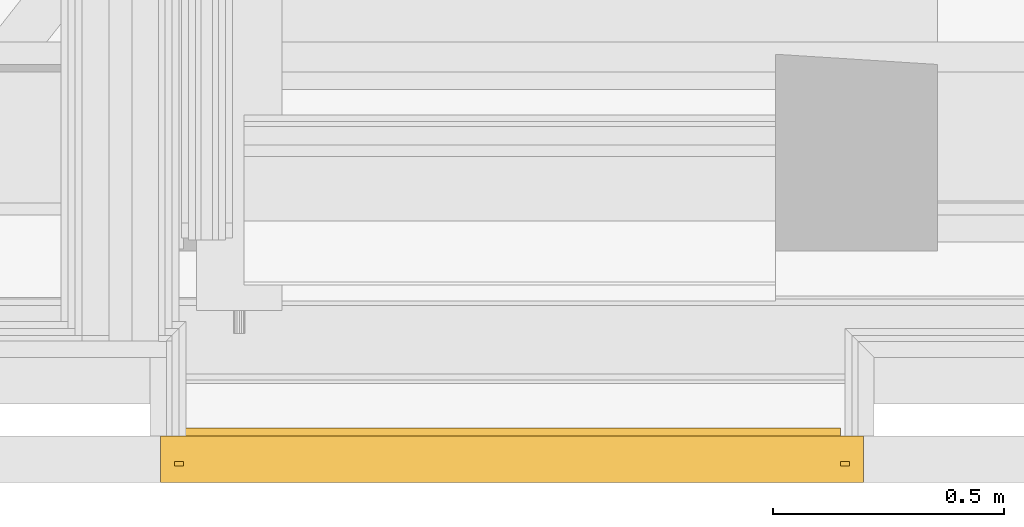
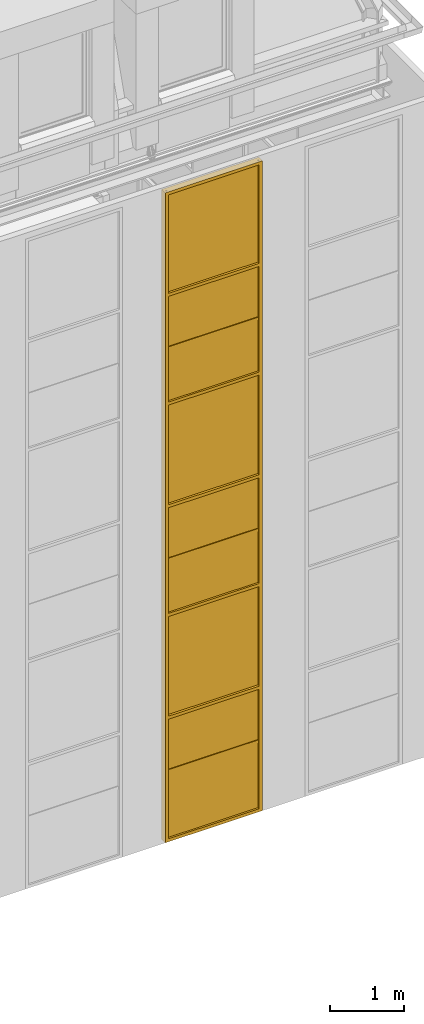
# One storey, part 141 of 183: 1 curtain wall.
"""IFC2X3 building model written with IfcOpenShell, lengths in metres."""

import ifcopenshell
import ifcopenshell.guid

model = None  # the IFC model being written
_history = None  # IfcOwnerHistory: only IFC2X3 demands one
_inside = {}  # id of a spatial element -> (the spatial element, [elements in it])
_under = {}  # id of a project, library or spatial element -> (it, [spatial elements below it])
_declared = {}  # id of a project -> (the project, [libraries it declares])
_typed = {}  # id of a type object -> (the type object, [elements of that type])
_made_of = {}  # id of a material, layer set ... -> (it, [elements and type objects made of it])


def new_model(schema):
    """Start an empty IFC model of exactly this schema.

    Asked for "IFC4X3", IfcOpenShell would pick the latest addendum, in which some entities
    have other attributes; the version numbers below select the first issue.
    IFC2X3 requires an IfcOwnerHistory on every rooted entity: one is made here for all.
    """
    global model, _history
    if schema == "IFC4X3":
        model = ifcopenshell.file(schema_version=(4, 3, 0, 0))
    else:
        model = ifcopenshell.file(schema=schema)
    _inside.clear()
    _under.clear()
    _declared.clear()
    _typed.clear()
    _made_of.clear()
    _history = None
    if model.schema == "IFC2X3":
        org = make("IfcOrganization", Name="unknown")
        user = make(
            "IfcPersonAndOrganization",
            ThePerson=make("IfcPerson", FamilyName="unknown"),
            TheOrganization=org,
        )
        app = make(
            "IfcApplication",
            ApplicationDeveloper=org,
            Version="unknown",
            ApplicationFullName="unknown",
            ApplicationIdentifier="unknown",
        )
        _history = make(
            "IfcOwnerHistory",
            OwningUser=user,
            OwningApplication=app,
            ChangeAction="ADDED",
            CreationDate=0,
        )
    return model


def make(cls, **values):
    """One entity of the class cls with the attributes given. An attribute that is None is left unset."""
    return model.create_entity(
        cls, **{name: value for name, value in values.items() if value is not None}
    )


def entity(cls, *values):
    """Any entity or typed value of the class cls, its attributes in the order of the schema. None: left unset."""
    e = model.create_entity(cls)
    for i, value in enumerate(values):
        if value is not None:
            e[i] = value
    return e


def rooted(cls, **values):
    """An entity with a GlobalId (a new one), such as an element, a storey or a relation."""
    return make(cls, GlobalId=ifcopenshell.guid.new(), OwnerHistory=_history, **values)


def si_unit(unit_type, name, prefix=None):
    """IfcSIUnit, for example si_unit("LENGTHUNIT", "METRE", prefix="MILLI")."""
    return make("IfcSIUnit", UnitType=unit_type, Prefix=prefix, Name=name)


def converted_unit(unit_type, name, factor, base, dimensions=None, offset=None):
    """IfcConversionBasedUnit, such as the inch: factor (a typed value) times the base unit."""
    return make(
        "IfcConversionBasedUnit"
        if offset is None
        else "IfcConversionBasedUnitWithOffset",
        ConversionOffset=offset,
        Dimensions=None
        if dimensions is None
        else entity("IfcDimensionalExponents", *dimensions),
        UnitType=unit_type,
        Name=name,
        ConversionFactor=make(
            "IfcMeasureWithUnit", ValueComponent=factor, UnitComponent=base
        ),
    )


def derived_unit(unit_type, elements):
    """IfcDerivedUnit: a product of units, each with its exponent."""
    return make(
        "IfcDerivedUnit",
        Elements=[
            make("IfcDerivedUnitElement", Unit=unit, Exponent=power)
            for unit, power in elements
        ],
        UnitType=unit_type,
    )


def money_unit(currency):
    """IfcMonetaryUnit."""
    return make("IfcMonetaryUnit", Currency=currency)


def assignment(units):
    """IfcUnitAssignment: the units of a project."""
    return None if units is None else make("IfcUnitAssignment", Units=units)


def point(xyz):
    """IfcCartesianPoint."""
    return None if xyz is None else make("IfcCartesianPoint", Coordinates=xyz)


def direction(xyz):
    """IfcDirection."""
    return None if xyz is None else make("IfcDirection", DirectionRatios=xyz)


def frame(location, z_axis=None, x_axis=None):
    """IfcAxis2Placement3D, a coordinate frame: its origin and axes. An axis left out is left unset."""
    return make(
        "IfcAxis2Placement3D",
        Location=point(location),
        Axis=direction(z_axis),
        RefDirection=direction(x_axis),
    )


def origin_with_axes():
    """The frame at (0, 0, 0) with the z axis (0, 0, 1) and the x axis (1, 0, 0) written out."""
    return frame((0.0, 0.0, 0.0), z_axis=(0.0, 0.0, 1.0), x_axis=(1.0, 0.0, 0.0))


def place(relative_to, where):
    """IfcLocalPlacement: puts the frame where relative to a parent placement (None: the world)."""
    return make(
        "IfcLocalPlacement", PlacementRelTo=relative_to, RelativePlacement=where
    )


def context(
    kind, dimensions, precision=None, world=None, true_north=None, identifier=None
):
    """IfcGeometricRepresentationContext, for example the 3D "Model" context."""
    return make(
        "IfcGeometricRepresentationContext",
        ContextIdentifier=identifier,
        ContextType=kind,
        CoordinateSpaceDimension=dimensions,
        Precision=precision,
        WorldCoordinateSystem=world,
        TrueNorth=true_north,
    )


def subcontext(parent, identifier, kind, view, scale=None):
    """IfcGeometricRepresentationSubContext, for example "Body" below "Model"."""
    return make(
        "IfcGeometricRepresentationSubContext",
        ContextIdentifier=identifier,
        ContextType=kind,
        ParentContext=parent,
        TargetScale=scale,
        TargetView=view,
    )


def project(units=None, contexts=None):
    """IfcProject with its units and contexts."""
    return rooted(
        "IfcProject",
        Name="project",
        RepresentationContexts=contexts,
        UnitsInContext=assignment(units),
    )


def spatial(cls, under=None, at=None, **own):
    """A site, building, storey or space (cls), placed at a placement, below another one or the project."""
    s = rooted(cls, ObjectPlacement=at, **own)
    if under is not None:
        _under.setdefault(under.id(), (under, []))[1].append(s)
    return s


def faces_of(points, faces, orient=None, outer=None):
    """IfcFace entities. A face is a list of loops; a loop is a list of indices into points, from 0.

    orient and outer hold one flag for each loop. By default every Orientation is true, the
    first loop of a face is its IfcFaceOuterBound and the others are IfcFaceBound.
    """
    made = []
    for i, loops in enumerate(faces):
        bounds = []
        for j, loop in enumerate(loops):
            is_outer = j == 0 if outer is None else outer[i][j]
            bounds.append(
                make(
                    "IfcFaceOuterBound" if is_outer else "IfcFaceBound",
                    Bound=make("IfcPolyLoop", Polygon=[points[k] for k in loop]),
                    Orientation=True if orient is None else orient[i][j],
                )
            )
        made.append(make("IfcFace", Bounds=bounds))
    return made


def faceted_brep(points, faces, orient=None, outer=None, voids=None):
    """IfcFacetedBrep: a solid bounded by flat faces; with voids (closed shells), ...WithVoids."""
    shared = [point(p) for p in points]
    hull = make("IfcClosedShell", CfsFaces=faces_of(shared, faces, orient, outer))
    if voids is None:
        return make("IfcFacetedBrep", Outer=hull)
    return make(
        "IfcFacetedBrepWithVoids",
        Outer=hull,
        Voids=[
            make(cls, CfsFaces=faces_of(shared, fs, o, b)) for cls, fs, o, b in voids
        ],
    )


def shape(context_of_items, identifier, shape_type, items):
    """IfcShapeRepresentation: the items that make up one representation, for example the "Body"."""
    return make(
        "IfcShapeRepresentation",
        ContextOfItems=context_of_items,
        RepresentationIdentifier=identifier,
        RepresentationType=shape_type,
        Items=items,
    )


def material(Name=None, Category=None):
    """IfcMaterial."""
    return make("IfcMaterial", Name=Name, Category=Category)


def made_of(thing, what):
    """Note that an element or type object is made of a material, layer set ...; save() writes the relation."""
    if what is not None:
        _made_of.setdefault(what.id(), (what, []))[1].append(thing)
    return thing


def type_object(cls, material=None, **own):
    """A type object (cls), such as IfcWallType, which elements share."""
    return made_of(rooted(cls, **own), material)


def element(
    cls,
    number,
    at=None,
    inside=None,
    cuts=None,
    type_object=None,
    material=None,
    context=None,
    identifier="Body",
    shape_type=None,
    held_by="IfcProductDefinitionShape",
    body=None,
    shapes=None,
    **own,
):
    """One element of the class cls, such as IfcWall. Its Tag is "e" and its number.

    at: its placement. inside: the storey or other place that contains it. cuts: it is an
    opening in that element (IfcRelVoidsElement). A single representation is given by context,
    identifier, shape_type and body (its items); several are given by shapes. held_by: the class
    of the entity that holds the representations. save() writes the other relations.
    """
    e = rooted(cls, Tag="e%d" % number, ObjectPlacement=at, **own)
    if body is not None:
        shapes = [shape(context, identifier, shape_type, body)]
    if shapes is not None:
        e.Representation = make(held_by, Representations=shapes)
    if inside is not None:
        _inside.setdefault(inside.id(), (inside, []))[1].append(e)
    if cuts is not None:
        rooted(
            "IfcRelVoidsElement", RelatingBuildingElement=cuts, RelatedOpeningElement=e
        )
    if type_object is not None:
        _typed.setdefault(type_object.id(), (type_object, []))[1].append(e)
    return made_of(e, material)


def aggregate(whole, parts):
    """IfcRelAggregates: a whole, such as a stair, and the parts it consists of."""
    return rooted("IfcRelAggregates", RelatingObject=whole, RelatedObjects=parts)


def save(model, path):
    """Write the relations noted so far, then the file.

    IfcRelAggregates (storeys below a building ...), IfcRelContainedInSpatialStructure (elements
    in a storey), IfcRelDefinesByType, IfcRelAssociatesMaterial and IfcRelDeclares: one each for
    every whole, place, type object, material and project.
    """
    for whole, parts in _under.values():
        aggregate(whole, parts)
    for where, things in _inside.values():
        rooted(
            "IfcRelContainedInSpatialStructure",
            RelatedElements=things,
            RelatingStructure=where,
        )
    for kind, things in _typed.values():
        rooted("IfcRelDefinesByType", RelatedObjects=things, RelatingType=kind)
    for what, things in _made_of.values():
        rooted("IfcRelAssociatesMaterial", RelatedObjects=things, RelatingMaterial=what)
    for by, libraries in _declared.values():
        rooted("IfcRelDeclares", RelatingContext=by, RelatedDefinitions=libraries)
    model.write(path)


model = new_model("IFC2X3")

# Units and contexts
model_context = context("Model", 3, precision=1e-05, world=origin_with_axes(), true_north=direction((0.0, 1.0)))
body_context = subcontext(model_context, "Body", "Model", "MODEL_VIEW", scale=1.0)
ifc_project = project(units=[si_unit("LENGTHUNIT", "METRE"), si_unit("AREAUNIT", "SQUARE_METRE"), si_unit("VOLUMEUNIT", "CUBIC_METRE"), si_unit("ABSORBEDDOSEUNIT", "GRAY"), si_unit("AMOUNTOFSUBSTANCEUNIT", "MOLE"), si_unit("DOSEEQUIVALENTUNIT", "SIEVERT"), si_unit("ELECTRICCAPACITANCEUNIT", "FARAD"), si_unit("ELECTRICCHARGEUNIT", "COULOMB"), si_unit("ELECTRICCONDUCTANCEUNIT", "SIEMENS"), si_unit("ELECTRICCURRENTUNIT", "AMPERE"), si_unit("ELECTRICRESISTANCEUNIT", "OHM"), si_unit("ELECTRICVOLTAGEUNIT", "VOLT"), si_unit("ENERGYUNIT", "JOULE"), si_unit("FORCEUNIT", "NEWTON"), si_unit("FREQUENCYUNIT", "HERTZ"), si_unit("ILLUMINANCEUNIT", "LUX"), si_unit("INDUCTANCEUNIT", "HENRY"), si_unit("LUMINOUSFLUXUNIT", "LUMEN"), si_unit("LUMINOUSINTENSITYUNIT", "CANDELA"), si_unit("MAGNETICFLUXDENSITYUNIT", "TESLA"), si_unit("MAGNETICFLUXUNIT", "WEBER"), si_unit("MASSUNIT", "GRAM"), converted_unit("PLANEANGLEUNIT", "degree", entity("IfcReal", 0.0174532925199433), si_unit("PLANEANGLEUNIT", "RADIAN"), dimensions=[0, 0, 0, 0, 0, 0, 0]), si_unit("POWERUNIT", "WATT"), si_unit("PRESSUREUNIT", "PASCAL"), si_unit("RADIOACTIVITYUNIT", "BECQUEREL"), si_unit("SOLIDANGLEUNIT", "STERADIAN"), si_unit("THERMODYNAMICTEMPERATUREUNIT", "KELVIN"), si_unit("TIMEUNIT", "SECOND"), derived_unit("ACCELERATIONUNIT", [(si_unit("LENGTHUNIT", "METRE"), 1), (si_unit("TIMEUNIT", "SECOND"), -2)]), derived_unit("ANGULARVELOCITYUNIT", [(converted_unit("PLANEANGLEUNIT", "degree", entity("IfcReal", 0.0174532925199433), si_unit("PLANEANGLEUNIT", "RADIAN"), dimensions=[0, 0, 0, 0, 0, 0, 0]), 1), (si_unit("TIMEUNIT", "SECOND"), -1)]), derived_unit("CURVATUREUNIT", [(converted_unit("PLANEANGLEUNIT", "degree", entity("IfcReal", 0.0174532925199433), si_unit("PLANEANGLEUNIT", "RADIAN"), dimensions=[0, 0, 0, 0, 0, 0, 0]), 1), (si_unit("LENGTHUNIT", "METRE"), -1)]), derived_unit("DYNAMICVISCOSITYUNIT", [(si_unit("PRESSUREUNIT", "PASCAL"), 1), (si_unit("TIMEUNIT", "SECOND"), 1)]), derived_unit("HEATFLUXDENSITYUNIT", [(si_unit("POWERUNIT", "WATT"), 1), (si_unit("LENGTHUNIT", "METRE"), -2)]), derived_unit("HEATINGVALUEUNIT", [(si_unit("ENERGYUNIT", "JOULE"), 1), (si_unit("MASSUNIT", "GRAM"), -1)]), derived_unit("INTEGERCOUNTRATEUNIT", [(si_unit("TIMEUNIT", "SECOND"), -1)]), derived_unit("IONCONCENTRATIONUNIT", [(si_unit("MASSUNIT", "GRAM"), 1), (si_unit("VOLUMEUNIT", "CUBIC_METRE"), -1)]), derived_unit("ISOTHERMALMOISTURECAPACITYUNIT", [(si_unit("VOLUMEUNIT", "CUBIC_METRE"), 1), (si_unit("MASSUNIT", "GRAM"), -1)]), derived_unit("KINEMATICVISCOSITYUNIT", [(si_unit("AREAUNIT", "SQUARE_METRE"), 1), (si_unit("TIMEUNIT", "SECOND"), -1)]), derived_unit("LINEARFORCEUNIT", [(si_unit("FORCEUNIT", "NEWTON"), 1), (si_unit("LENGTHUNIT", "METRE"), -1)]), derived_unit("LINEARMOMENTUNIT", [(si_unit("FORCEUNIT", "NEWTON"), 1), (si_unit("LENGTHUNIT", "METRE"), -1)]), derived_unit("LINEARSTIFFNESSUNIT", [(si_unit("FORCEUNIT", "NEWTON"), 1), (si_unit("LENGTHUNIT", "METRE"), -1)]), derived_unit("LINEARVELOCITYUNIT", [(si_unit("LENGTHUNIT", "METRE"), 1), (si_unit("TIMEUNIT", "SECOND"), -1)]), derived_unit("LUMINOUSINTENSITYDISTRIBUTIONUNIT", [(si_unit("LUMINOUSINTENSITYUNIT", "CANDELA"), 1), (si_unit("LUMINOUSFLUXUNIT", "LUMEN"), -1)]), derived_unit("MASSDENSITYUNIT", [(si_unit("MASSUNIT", "GRAM"), 1), (si_unit("VOLUMEUNIT", "CUBIC_METRE"), -1)]), derived_unit("MASSFLOWRATEUNIT", [(si_unit("MASSUNIT", "GRAM"), 1), (si_unit("TIMEUNIT", "SECOND"), -1)]), derived_unit("MASSPERLENGTHUNIT", [(si_unit("MASSUNIT", "GRAM"), 1), (si_unit("LENGTHUNIT", "METRE"), -1)]), derived_unit("MODULUSOFELASTICITYUNIT", [(si_unit("FORCEUNIT", "NEWTON"), 1), (si_unit("AREAUNIT", "SQUARE_METRE"), -1)]), derived_unit("MODULUSOFLINEARSUBGRADEREACTIONUNIT", [(si_unit("FORCEUNIT", "NEWTON"), 1), (si_unit("LENGTHUNIT", "METRE"), -2)]), derived_unit("MODULUSOFROTATIONALSUBGRADEREACTIONUNIT", [(si_unit("FORCEUNIT", "NEWTON"), 1), (si_unit("LENGTHUNIT", "METRE"), 1)]), derived_unit("MODULUSOFSUBGRADEREACTIONUNIT", [(si_unit("FORCEUNIT", "NEWTON"), 1), (si_unit("VOLUMEUNIT", "CUBIC_METRE"), -1)]), derived_unit("MOISTUREDIFFUSIVITYUNIT", [(si_unit("VOLUMEUNIT", "CUBIC_METRE"), 1), (si_unit("TIMEUNIT", "SECOND"), -1)]), derived_unit("MOLECULARWEIGHTUNIT", [(si_unit("MASSUNIT", "GRAM"), 1), (si_unit("AMOUNTOFSUBSTANCEUNIT", "MOLE"), -1)]), derived_unit("PLANARFORCEUNIT", [(si_unit("FORCEUNIT", "NEWTON"), 1), (si_unit("LENGTHUNIT", "METRE"), -2)]), derived_unit("ROTATIONALFREQUENCYUNIT", [(si_unit("TIMEUNIT", "SECOND"), -1)]), derived_unit("ROTATIONALMASSUNIT", [(si_unit("MASSUNIT", "GRAM"), 1), (si_unit("LENGTHUNIT", "METRE"), 2)]), derived_unit("ROTATIONALSTIFFNESSUNIT", [(si_unit("FORCEUNIT", "NEWTON"), 1), (si_unit("LENGTHUNIT", "METRE"), 1), (converted_unit("PLANEANGLEUNIT", "degree", entity("IfcReal", 0.0174532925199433), si_unit("PLANEANGLEUNIT", "RADIAN"), dimensions=[0, 0, 0, 0, 0, 0, 0]), -1)]), derived_unit("SECTIONAREAINTEGRALUNIT", [(si_unit("LENGTHUNIT", "METRE"), 5)]), derived_unit("SECTIONMODULUSUNIT", [(si_unit("LENGTHUNIT", "METRE"), 3)]), derived_unit("SHEARMODULUSUNIT", [(si_unit("FORCEUNIT", "NEWTON"), 1), (si_unit("AREAUNIT", "SQUARE_METRE"), -1)]), derived_unit("SOUNDPOWERUNIT", [(si_unit("ENERGYUNIT", "JOULE"), 1), (si_unit("TIMEUNIT", "SECOND"), -1)]), derived_unit("SPECIFICHEATCAPACITYUNIT", [(si_unit("FORCEUNIT", "NEWTON"), 1), (si_unit("MASSUNIT", "GRAM"), -1), (si_unit("THERMODYNAMICTEMPERATUREUNIT", "KELVIN"), -1)]), derived_unit("TEMPERATUREGRADIENTUNIT", [(si_unit("THERMODYNAMICTEMPERATUREUNIT", "KELVIN"), 1), (si_unit("LENGTHUNIT", "METRE"), -1)]), derived_unit("THERMALADMITTANCEUNIT", [(si_unit("POWERUNIT", "WATT"), 1), (si_unit("AREAUNIT", "SQUARE_METRE"), -1), (si_unit("THERMODYNAMICTEMPERATUREUNIT", "KELVIN"), -1)]), derived_unit("THERMALCONDUCTANCEUNIT", [(si_unit("POWERUNIT", "WATT"), 1), (si_unit("LENGTHUNIT", "METRE"), -1), (si_unit("THERMODYNAMICTEMPERATUREUNIT", "KELVIN"), -1)]), derived_unit("THERMALEXPANSIONCOEFFICIENTUNIT", [(si_unit("THERMODYNAMICTEMPERATUREUNIT", "KELVIN"), -1)]), derived_unit("THERMALRESISTANCEUNIT", [(si_unit("AREAUNIT", "SQUARE_METRE"), 1), (si_unit("POWERUNIT", "WATT"), -1)]), derived_unit("THERMALTRANSMITTANCEUNIT", [(si_unit("POWERUNIT", "WATT"), 1), (si_unit("AREAUNIT", "SQUARE_METRE"), -1), (si_unit("THERMODYNAMICTEMPERATUREUNIT", "KELVIN"), -1)]), derived_unit("TORQUEUNIT", [(si_unit("FORCEUNIT", "NEWTON"), 1), (si_unit("LENGTHUNIT", "METRE"), 1)]), derived_unit("VAPORPERMEABILITYUNIT", [(si_unit("MASSUNIT", "GRAM"), 1), (si_unit("TIMEUNIT", "SECOND"), -1)]), derived_unit("VOLUMETRICFLOWRATEUNIT", [(si_unit("VOLUMEUNIT", "CUBIC_METRE"), 1), (si_unit("TIMEUNIT", "SECOND"), -1)]), derived_unit("WARPINGCONSTANTUNIT", [(si_unit("LENGTHUNIT", "METRE"), 6)]), derived_unit("WARPINGMOMENTUNIT", [(si_unit("FORCEUNIT", "NEWTON"), 1), (si_unit("LENGTHUNIT", "METRE"), 2)]), money_unit("GBP")], contexts=[model_context])

# Site, building, storey
site_placement = place(None, origin_with_axes())
site = spatial("IfcSite", under=ifc_project, at=site_placement, Name="Site", CompositionType="ELEMENT")
building_placement = place(site_placement, origin_with_axes())
building = spatial("IfcBuilding", under=site, at=building_placement, Name="Building01", CompositionType="ELEMENT")
storey_placement = place(building_placement, frame((0.0, 0.0, 5.15), z_axis=(0.0, 0.0, 1.0), x_axis=(1.0, 0.0, 0.0)))
storey = spatial("IfcBuildingStorey", under=building, at=storey_placement, Name="1F", CompositionType="ELEMENT", Elevation=5.15)

# Curtain wall
ifc_material = material(Name="A-CurtainWall_Frame")
curtain_wall_type = type_object("IfcCurtainWallType", Name="Pattern - Maximum Spacing", PredefinedType="NOTDEFINED")
curtain_wall_placement = place(storey_placement, frame((0.0, 0.0, -5.15), z_axis=(0.0, 0.0, 1.0), x_axis=(1.0, 0.0, 0.0)))
element("IfcCurtainWall", 1, at=curtain_wall_placement, inside=storey, type_object=curtain_wall_type, material=ifc_material, Name="26", ObjectType="Pattern - Maximum Spacing", context=body_context, shape_type="Brep", body=[
    faceted_brep([(22.63, 0.05, 4.0), (22.63, 0.03, 4.0), (22.63, 0.03, 5.118945), (22.63, 0.05, 5.118945), (24.09, 0.05, 4.0), (24.09, 0.03, 4.0), (24.09, 0.05, 5.118945), (24.09, 0.03, 5.118945)], [[[0, 1, 2, 3]], [[4, 5, 1, 0]], [[6, 7, 5, 4]], [[3, 2, 7, 6]], [[1, 5, 7, 2]], [[3, 6, 4, 0]]]),
    faceted_brep([(22.65, 0.045, 3.97), (22.63, 0.045, 3.97), (22.63, 0.035, 3.97), (22.65, 0.035, 3.97), (22.65, 0.0, 3.97), (22.6, 0.0, 3.97), (22.6, 0.1, 3.97), (22.65, 0.1, 3.97), (22.65, 0.1, 5.123945), (22.65, 0.045, 5.123945), (22.63, 0.045, 5.123945), (22.63, 0.035, 5.123945), (22.65, 0.035, 5.123945), (22.65, 0.0, 5.123945), (22.6, 0.0, 5.123945), (22.6, 0.1, 5.123945)], [[[0, 1, 2, 3, 4, 5, 6, 7]], [[7, 8, 9, 0]], [[0, 9, 10, 1]], [[1, 10, 11, 2]], [[2, 11, 12, 3]], [[3, 12, 13, 4]], [[4, 13, 14, 5]], [[5, 14, 15, 6]], [[6, 15, 8, 7]]]),
    faceted_brep([(24.07, 0.045, 4.0), (24.07, 0.035, 4.0), (24.07, 0.035, 4.02), (24.07, 0.0, 4.02), (24.07, 0.0, 3.97), (24.07, 0.1, 3.97), (24.07, 0.1, 4.02), (24.07, 0.045, 4.02), (22.65, 0.045, 4.02), (22.65, 0.045, 4.0), (22.65, 0.035, 4.0), (22.65, 0.035, 4.02), (22.65, 0.0, 4.02), (22.65, 0.0, 3.97), (22.65, 0.1, 3.97), (22.65, 0.1, 4.02)], [[[0, 1, 2, 3, 4, 5, 6, 7]], [[7, 8, 9, 0]], [[0, 9, 10, 1]], [[1, 10, 11, 2]], [[2, 11, 12, 3]], [[3, 12, 13, 4]], [[4, 13, 14, 5]], [[5, 14, 15, 6]], [[6, 15, 8, 7]], [[8, 15, 14, 13, 12, 11, 10, 9]]]),
    faceted_brep([(24.07, 0.045, 3.97), (24.07, 0.045, 5.123945), (24.07, 0.1, 5.123945), (24.07, 0.1, 3.97), (24.09, 0.045, 3.97), (24.09, 0.045, 5.123945), (24.09, 0.035, 3.97), (24.09, 0.035, 5.123945), (24.07, 0.035, 3.97), (24.07, 0.035, 5.123945), (24.07, 0.0, 3.97), (24.07, 0.0, 5.123945), (24.12, 0.0, 3.97), (24.12, 0.0, 5.123945), (24.12, 0.1, 3.97), (24.12, 0.1, 5.123945)], [[[0, 1, 2, 3]], [[4, 5, 1, 0]], [[6, 7, 5, 4]], [[8, 9, 7, 6]], [[10, 11, 9, 8]], [[12, 13, 11, 10]], [[14, 15, 13, 12]], [[3, 2, 15, 14]], [[14, 12, 10, 8, 6, 4, 0, 3]]]),
    faceted_brep([(22.65, 0.0625, 5.118945), (22.65, 0.0525, 5.118945), (22.65, 0.0525, 5.098945), (22.65, 0.0175, 5.098945), (22.65, 0.0175, 5.148945), (22.65, 0.0525, 5.148945), (22.65, 0.0525, 5.128945), (22.65, 0.0625, 5.128945), (22.65, 0.0625, 5.148945), (22.65, 0.1175, 5.148945), (22.65, 0.1175, 5.098945), (22.65, 0.0625, 5.098945), (24.07, 0.0625, 5.098945), (24.07, 0.0625, 5.118945), (24.07, 0.0525, 5.118945), (24.07, 0.0525, 5.098945), (24.07, 0.0175, 5.098945), (24.07, 0.0175, 5.148945), (24.07, 0.0525, 5.148945), (24.07, 0.0625, 5.128945), (24.07, 0.0625, 5.148945), (24.07, 0.0525, 5.128945), (24.07, 0.1175, 5.098945), (24.07, 0.1175, 5.148945)], [[[0, 1, 2, 3, 4, 5, 6, 7, 8, 9, 10, 11]], [[11, 12, 13, 0]], [[0, 13, 14, 1]], [[1, 14, 15, 2]], [[2, 15, 16, 3]], [[3, 16, 17, 4]], [[4, 17, 18, 5]], [[7, 19, 20, 8]], [[6, 21, 19, 7]], [[5, 18, 21, 6]], [[10, 22, 12, 11]], [[9, 23, 22, 10]], [[8, 20, 23, 9]], [[20, 19, 21, 18, 17, 16, 15, 14, 13, 12, 22, 23]]]),
    faceted_brep([(22.63, 0.05, 5.128945), (22.63, 0.03, 5.128945), (22.63, 0.03, 6.018105), (22.63, 0.05, 6.018105), (24.09, 0.05, 5.128945), (24.09, 0.03, 5.128945), (24.09, 0.05, 6.018105), (24.09, 0.03, 6.018105)], [[[0, 1, 2, 3]], [[4, 5, 1, 0]], [[6, 7, 5, 4]], [[3, 2, 7, 6]], [[1, 5, 7, 2]], [[3, 6, 4, 0]]]),
    faceted_brep([(22.6, 0.1, 6.023105), (22.6, 0.1, 5.123945), (22.6, 0.0, 5.123945), (22.6, 0.0, 6.023105), (22.65, 0.1, 6.023105), (22.65, 0.1, 5.123945), (22.65, 0.045, 6.023105), (22.65, 0.045, 5.123945), (22.63, 0.045, 6.023105), (22.63, 0.045, 5.123945), (22.63, 0.035, 6.023105), (22.63, 0.035, 5.123945), (22.65, 0.035, 6.023105), (22.65, 0.035, 5.123945), (22.65, 0.0, 6.023105), (22.65, 0.0, 5.123945)], [[[0, 1, 2, 3]], [[4, 5, 1, 0]], [[6, 7, 5, 4]], [[8, 9, 7, 6]], [[10, 11, 9, 8]], [[12, 13, 11, 10]], [[14, 15, 13, 12]], [[3, 2, 15, 14]]]),
    faceted_brep([(24.07, 0.045, 5.123945), (24.07, 0.045, 6.023105), (24.07, 0.1, 6.023105), (24.07, 0.1, 5.123945), (24.09, 0.045, 5.123945), (24.09, 0.045, 6.023105), (24.09, 0.035, 5.123945), (24.09, 0.035, 6.023105), (24.07, 0.035, 5.123945), (24.07, 0.035, 6.023105), (24.07, 0.0, 5.123945), (24.07, 0.0, 6.023105), (24.12, 0.0, 5.123945), (24.12, 0.0, 6.023105), (24.12, 0.1, 5.123945), (24.12, 0.1, 6.023105)], [[[0, 1, 2, 3]], [[4, 5, 1, 0]], [[6, 7, 5, 4]], [[8, 9, 7, 6]], [[10, 11, 9, 8]], [[12, 13, 11, 10]], [[14, 15, 13, 12]], [[3, 2, 15, 14]]]),
    faceted_brep([(22.65, 0.045, 6.018105), (22.65, 0.035, 6.018105), (22.65, 0.035, 5.998105), (22.65, 0.0, 5.998105), (22.65, 0.0, 6.048105), (22.65, 0.035, 6.048105), (22.65, 0.035, 6.028105), (22.65, 0.045, 6.028105), (22.65, 0.045, 6.048105), (22.65, 0.1, 6.048105), (22.65, 0.1, 5.998105), (22.65, 0.045, 5.998105), (24.07, 0.045, 5.998105), (24.07, 0.045, 6.018105), (24.07, 0.035, 6.018105), (24.07, 0.035, 5.998105), (24.07, 0.0, 5.998105), (24.07, 0.0, 6.048105), (24.07, 0.035, 6.048105), (24.07, 0.045, 6.028105), (24.07, 0.045, 6.048105), (24.07, 0.035, 6.028105), (24.07, 0.1, 5.998105), (24.07, 0.1, 6.048105)], [[[0, 1, 2, 3, 4, 5, 6, 7, 8, 9, 10, 11]], [[11, 12, 13, 0]], [[0, 13, 14, 1]], [[1, 14, 15, 2]], [[2, 15, 16, 3]], [[3, 16, 17, 4]], [[4, 17, 18, 5]], [[7, 19, 20, 8]], [[6, 21, 19, 7]], [[5, 18, 21, 6]], [[10, 22, 12, 11]], [[9, 23, 22, 10]], [[8, 20, 23, 9]], [[20, 19, 21, 18, 17, 16, 15, 14, 13, 12, 22, 23]]]),
    faceted_brep([(22.63, 0.045, 6.028105), (22.63, 0.035, 6.028105), (22.63, 0.035, 7.716517), (22.63, 0.045, 7.716517), (24.09, 0.045, 6.028105), (24.09, 0.035, 6.028105), (24.09, 0.045, 7.716517), (24.09, 0.035, 7.716517)], [[[0, 1, 2, 3]], [[4, 5, 1, 0]], [[6, 7, 5, 4]], [[3, 2, 7, 6]], [[1, 5, 7, 2]], [[3, 6, 4, 0]]]),
    faceted_brep([(22.6, 0.1, 7.721517), (22.6, 0.1, 6.023105), (22.6, 0.0, 6.023105), (22.6, 0.0, 7.721517), (22.65, 0.1, 7.721517), (22.65, 0.1, 6.023105), (22.65, 0.045, 7.721517), (22.65, 0.045, 6.023105), (22.63, 0.045, 7.721517), (22.63, 0.045, 6.023105), (22.63, 0.035, 7.721517), (22.63, 0.035, 6.023105), (22.65, 0.035, 7.721517), (22.65, 0.035, 6.023105), (22.65, 0.0, 7.721517), (22.65, 0.0, 6.023105)], [[[0, 1, 2, 3]], [[4, 5, 1, 0]], [[6, 7, 5, 4]], [[8, 9, 7, 6]], [[10, 11, 9, 8]], [[12, 13, 11, 10]], [[14, 15, 13, 12]], [[3, 2, 15, 14]]]),
    faceted_brep([(24.07, 0.045, 6.023105), (24.07, 0.045, 7.721517), (24.07, 0.1, 7.721517), (24.07, 0.1, 6.023105), (24.09, 0.045, 6.023105), (24.09, 0.045, 7.721517), (24.09, 0.035, 6.023105), (24.09, 0.035, 7.721517), (24.07, 0.035, 6.023105), (24.07, 0.035, 7.721517), (24.07, 0.0, 6.023105), (24.07, 0.0, 7.721517), (24.12, 0.0, 6.023105), (24.12, 0.0, 7.721517), (24.12, 0.1, 6.023105), (24.12, 0.1, 7.721517)], [[[0, 1, 2, 3]], [[4, 5, 1, 0]], [[6, 7, 5, 4]], [[8, 9, 7, 6]], [[10, 11, 9, 8]], [[12, 13, 11, 10]], [[14, 15, 13, 12]], [[3, 2, 15, 14]]]),
    faceted_brep([(22.65, 0.045, 7.716517), (22.65, 0.035, 7.716517), (22.65, 0.035, 7.696517), (22.65, 0.0, 7.696517), (22.65, 0.0, 7.746517), (22.65, 0.035, 7.746517), (22.65, 0.035, 7.726517), (22.65, 0.045, 7.726517), (22.65, 0.045, 7.746517), (22.65, 0.1, 7.746517), (22.65, 0.1, 7.696517), (22.65, 0.045, 7.696517), (24.07, 0.045, 7.696517), (24.07, 0.045, 7.716517), (24.07, 0.035, 7.716517), (24.07, 0.035, 7.696517), (24.07, 0.0, 7.696517), (24.07, 0.0, 7.746517), (24.07, 0.035, 7.746517), (24.07, 0.045, 7.726517), (24.07, 0.045, 7.746517), (24.07, 0.035, 7.726517), (24.07, 0.1, 7.696517), (24.07, 0.1, 7.746517)], [[[0, 1, 2, 3, 4, 5, 6, 7, 8, 9, 10, 11]], [[11, 12, 13, 0]], [[0, 13, 14, 1]], [[1, 14, 15, 2]], [[2, 15, 16, 3]], [[3, 16, 17, 4]], [[4, 17, 18, 5]], [[7, 19, 20, 8]], [[6, 21, 19, 7]], [[5, 18, 21, 6]], [[10, 22, 12, 11]], [[9, 23, 22, 10]], [[8, 20, 23, 9]], [[20, 19, 21, 18, 17, 16, 15, 14, 13, 12, 22, 23]]]),
    faceted_brep([(22.63, 0.05, 7.726517), (22.63, 0.03, 7.726517), (22.63, 0.03, 8.615677), (22.63, 0.05, 8.615677), (24.09, 0.05, 7.726517), (24.09, 0.03, 7.726517), (24.09, 0.05, 8.615677), (24.09, 0.03, 8.615677)], [[[0, 1, 2, 3]], [[4, 5, 1, 0]], [[6, 7, 5, 4]], [[3, 2, 7, 6]], [[1, 5, 7, 2]], [[3, 6, 4, 0]]]),
    faceted_brep([(22.6, 0.1, 8.620677), (22.6, 0.1, 7.721517), (22.6, 0.0, 7.721517), (22.6, 0.0, 8.620677), (22.65, 0.1, 8.620677), (22.65, 0.1, 7.721517), (22.65, 0.045, 8.620677), (22.65, 0.045, 7.721517), (22.63, 0.045, 8.620677), (22.63, 0.045, 7.721517), (22.63, 0.035, 8.620677), (22.63, 0.035, 7.721517), (22.65, 0.035, 8.620677), (22.65, 0.035, 7.721517), (22.65, 0.0, 8.620677), (22.65, 0.0, 7.721517)], [[[0, 1, 2, 3]], [[4, 5, 1, 0]], [[6, 7, 5, 4]], [[8, 9, 7, 6]], [[10, 11, 9, 8]], [[12, 13, 11, 10]], [[14, 15, 13, 12]], [[3, 2, 15, 14]]]),
    faceted_brep([(24.07, 0.045, 7.721517), (24.07, 0.045, 8.620677), (24.07, 0.1, 8.620677), (24.07, 0.1, 7.721517), (24.09, 0.045, 7.721517), (24.09, 0.045, 8.620677), (24.09, 0.035, 7.721517), (24.09, 0.035, 8.620677), (24.07, 0.035, 7.721517), (24.07, 0.035, 8.620677), (24.07, 0.0, 7.721517), (24.07, 0.0, 8.620677), (24.12, 0.0, 7.721517), (24.12, 0.0, 8.620677), (24.12, 0.1, 7.721517), (24.12, 0.1, 8.620677)], [[[0, 1, 2, 3]], [[4, 5, 1, 0]], [[6, 7, 5, 4]], [[8, 9, 7, 6]], [[10, 11, 9, 8]], [[12, 13, 11, 10]], [[14, 15, 13, 12]], [[3, 2, 15, 14]]]),
    faceted_brep([(22.65, 0.0625, 8.615677), (22.65, 0.0525, 8.615677), (22.65, 0.0525, 8.595677), (22.65, 0.0175, 8.595677), (22.65, 0.0175, 8.645677), (22.65, 0.0525, 8.645677), (22.65, 0.0525, 8.625677), (22.65, 0.0625, 8.625677), (22.65, 0.0625, 8.645677), (22.65, 0.1175, 8.645677), (22.65, 0.1175, 8.595677), (22.65, 0.0625, 8.595677), (24.07, 0.0625, 8.595677), (24.07, 0.0625, 8.615677), (24.07, 0.0525, 8.615677), (24.07, 0.0525, 8.595677), (24.07, 0.0175, 8.595677), (24.07, 0.0175, 8.645677), (24.07, 0.0525, 8.645677), (24.07, 0.0625, 8.625677), (24.07, 0.0625, 8.645677), (24.07, 0.0525, 8.625677), (24.07, 0.1175, 8.595677), (24.07, 0.1175, 8.645677)], [[[0, 1, 2, 3, 4, 5, 6, 7, 8, 9, 10, 11]], [[11, 12, 13, 0]], [[0, 13, 14, 1]], [[1, 14, 15, 2]], [[2, 15, 16, 3]], [[3, 16, 17, 4]], [[4, 17, 18, 5]], [[7, 19, 20, 8]], [[6, 21, 19, 7]], [[5, 18, 21, 6]], [[10, 22, 12, 11]], [[9, 23, 22, 10]], [[8, 20, 23, 9]], [[20, 19, 21, 18, 17, 16, 15, 14, 13, 12, 22, 23]]]),
    faceted_brep([(22.63, 0.05, 8.625677), (22.63, 0.03, 8.625677), (22.63, 0.03, 9.514837), (22.63, 0.05, 9.514837), (24.09, 0.05, 8.625677), (24.09, 0.03, 8.625677), (24.09, 0.05, 9.514837), (24.09, 0.03, 9.514837)], [[[0, 1, 2, 3]], [[4, 5, 1, 0]], [[6, 7, 5, 4]], [[3, 2, 7, 6]], [[1, 5, 7, 2]], [[3, 6, 4, 0]]]),
    faceted_brep([(22.6, 0.1, 9.519837), (22.6, 0.1, 8.620677), (22.6, 0.0, 8.620677), (22.6, 0.0, 9.519837), (22.65, 0.1, 9.519837), (22.65, 0.1, 8.620677), (22.65, 0.045, 9.519837), (22.65, 0.045, 8.620677), (22.63, 0.045, 9.519837), (22.63, 0.045, 8.620677), (22.63, 0.035, 9.519837), (22.63, 0.035, 8.620677), (22.65, 0.035, 9.519837), (22.65, 0.035, 8.620677), (22.65, 0.0, 9.519837), (22.65, 0.0, 8.620677)], [[[0, 1, 2, 3]], [[4, 5, 1, 0]], [[6, 7, 5, 4]], [[8, 9, 7, 6]], [[10, 11, 9, 8]], [[12, 13, 11, 10]], [[14, 15, 13, 12]], [[3, 2, 15, 14]]]),
    faceted_brep([(24.07, 0.045, 8.620677), (24.07, 0.045, 9.519837), (24.07, 0.1, 9.519837), (24.07, 0.1, 8.620677), (24.09, 0.045, 8.620677), (24.09, 0.045, 9.519837), (24.09, 0.035, 8.620677), (24.09, 0.035, 9.519837), (24.07, 0.035, 8.620677), (24.07, 0.035, 9.519837), (24.07, 0.0, 8.620677), (24.07, 0.0, 9.519837), (24.12, 0.0, 8.620677), (24.12, 0.0, 9.519837), (24.12, 0.1, 8.620677), (24.12, 0.1, 9.519837)], [[[0, 1, 2, 3]], [[4, 5, 1, 0]], [[6, 7, 5, 4]], [[8, 9, 7, 6]], [[10, 11, 9, 8]], [[12, 13, 11, 10]], [[14, 15, 13, 12]], [[3, 2, 15, 14]]]),
    faceted_brep([(22.65, 0.045, 9.514837), (22.65, 0.035, 9.514837), (22.65, 0.035, 9.494837), (22.65, 0.0, 9.494837), (22.65, 0.0, 9.544837), (22.65, 0.035, 9.544837), (22.65, 0.035, 9.524837), (22.65, 0.045, 9.524837), (22.65, 0.045, 9.544837), (22.65, 0.1, 9.544837), (22.65, 0.1, 9.494837), (22.65, 0.045, 9.494837), (24.07, 0.045, 9.494837), (24.07, 0.045, 9.514837), (24.07, 0.035, 9.514837), (24.07, 0.035, 9.494837), (24.07, 0.0, 9.494837), (24.07, 0.0, 9.544837), (24.07, 0.035, 9.544837), (24.07, 0.045, 9.524837), (24.07, 0.045, 9.544837), (24.07, 0.035, 9.524837), (24.07, 0.1, 9.494837), (24.07, 0.1, 9.544837)], [[[0, 1, 2, 3, 4, 5, 6, 7, 8, 9, 10, 11]], [[11, 12, 13, 0]], [[0, 13, 14, 1]], [[1, 14, 15, 2]], [[2, 15, 16, 3]], [[3, 16, 17, 4]], [[4, 17, 18, 5]], [[7, 19, 20, 8]], [[6, 21, 19, 7]], [[5, 18, 21, 6]], [[10, 22, 12, 11]], [[9, 23, 22, 10]], [[8, 20, 23, 9]], [[20, 19, 21, 18, 17, 16, 15, 14, 13, 12, 22, 23]]]),
    faceted_brep([(22.63, 0.045, 9.524837), (22.63, 0.035, 9.524837), (22.63, 0.035, 11.213249), (22.63, 0.045, 11.213249), (24.09, 0.045, 9.524837), (24.09, 0.035, 9.524837), (24.09, 0.045, 11.213249), (24.09, 0.035, 11.213249)], [[[0, 1, 2, 3]], [[4, 5, 1, 0]], [[6, 7, 5, 4]], [[3, 2, 7, 6]], [[1, 5, 7, 2]], [[3, 6, 4, 0]]]),
    faceted_brep([(22.6, 0.1, 11.218249), (22.6, 0.1, 9.519837), (22.6, 0.0, 9.519837), (22.6, 0.0, 11.218249), (22.65, 0.1, 11.218249), (22.65, 0.1, 9.519837), (22.65, 0.045, 11.218249), (22.65, 0.045, 9.519837), (22.63, 0.045, 11.218249), (22.63, 0.045, 9.519837), (22.63, 0.035, 11.218249), (22.63, 0.035, 9.519837), (22.65, 0.035, 11.218249), (22.65, 0.035, 9.519837), (22.65, 0.0, 11.218249), (22.65, 0.0, 9.519837)], [[[0, 1, 2, 3]], [[4, 5, 1, 0]], [[6, 7, 5, 4]], [[8, 9, 7, 6]], [[10, 11, 9, 8]], [[12, 13, 11, 10]], [[14, 15, 13, 12]], [[3, 2, 15, 14]]]),
    faceted_brep([(24.07, 0.045, 9.519837), (24.07, 0.045, 11.218249), (24.07, 0.1, 11.218249), (24.07, 0.1, 9.519837), (24.09, 0.045, 9.519837), (24.09, 0.045, 11.218249), (24.09, 0.035, 9.519837), (24.09, 0.035, 11.218249), (24.07, 0.035, 9.519837), (24.07, 0.035, 11.218249), (24.07, 0.0, 9.519837), (24.07, 0.0, 11.218249), (24.12, 0.0, 9.519837), (24.12, 0.0, 11.218249), (24.12, 0.1, 9.519837), (24.12, 0.1, 11.218249)], [[[0, 1, 2, 3]], [[4, 5, 1, 0]], [[6, 7, 5, 4]], [[8, 9, 7, 6]], [[10, 11, 9, 8]], [[12, 13, 11, 10]], [[14, 15, 13, 12]], [[3, 2, 15, 14]]]),
    faceted_brep([(22.65, 0.045, 11.213249), (22.65, 0.035, 11.213249), (22.65, 0.035, 11.193249), (22.65, 0.0, 11.193249), (22.65, 0.0, 11.243249), (22.65, 0.035, 11.243249), (22.65, 0.035, 11.223249), (22.65, 0.045, 11.223249), (22.65, 0.045, 11.243249), (22.65, 0.1, 11.243249), (22.65, 0.1, 11.193249), (22.65, 0.045, 11.193249), (24.07, 0.045, 11.193249), (24.07, 0.045, 11.213249), (24.07, 0.035, 11.213249), (24.07, 0.035, 11.193249), (24.07, 0.0, 11.193249), (24.07, 0.0, 11.243249), (24.07, 0.035, 11.243249), (24.07, 0.045, 11.223249), (24.07, 0.045, 11.243249), (24.07, 0.035, 11.223249), (24.07, 0.1, 11.193249), (24.07, 0.1, 11.243249)], [[[0, 1, 2, 3, 4, 5, 6, 7, 8, 9, 10, 11]], [[11, 12, 13, 0]], [[0, 13, 14, 1]], [[1, 14, 15, 2]], [[2, 15, 16, 3]], [[3, 16, 17, 4]], [[4, 17, 18, 5]], [[7, 19, 20, 8]], [[6, 21, 19, 7]], [[5, 18, 21, 6]], [[10, 22, 12, 11]], [[9, 23, 22, 10]], [[8, 20, 23, 9]], [[20, 19, 21, 18, 17, 16, 15, 14, 13, 12, 22, 23]]]),
    faceted_brep([(22.63, 0.05, 11.223249), (22.63, 0.03, 11.223249), (22.63, 0.03, 12.112409), (22.63, 0.05, 12.112409), (24.09, 0.05, 11.223249), (24.09, 0.03, 11.223249), (24.09, 0.05, 12.112409), (24.09, 0.03, 12.112409)], [[[0, 1, 2, 3]], [[4, 5, 1, 0]], [[6, 7, 5, 4]], [[3, 2, 7, 6]], [[1, 5, 7, 2]], [[3, 6, 4, 0]]]),
    faceted_brep([(22.6, 0.1, 12.117409), (22.6, 0.1, 11.218249), (22.6, 0.0, 11.218249), (22.6, 0.0, 12.117409), (22.65, 0.1, 12.117409), (22.65, 0.1, 11.218249), (22.65, 0.045, 12.117409), (22.65, 0.045, 11.218249), (22.63, 0.045, 12.117409), (22.63, 0.045, 11.218249), (22.63, 0.035, 12.117409), (22.63, 0.035, 11.218249), (22.65, 0.035, 12.117409), (22.65, 0.035, 11.218249), (22.65, 0.0, 12.117409), (22.65, 0.0, 11.218249)], [[[0, 1, 2, 3]], [[4, 5, 1, 0]], [[6, 7, 5, 4]], [[8, 9, 7, 6]], [[10, 11, 9, 8]], [[12, 13, 11, 10]], [[14, 15, 13, 12]], [[3, 2, 15, 14]]]),
    faceted_brep([(24.07, 0.045, 11.218249), (24.07, 0.045, 12.117409), (24.07, 0.1, 12.117409), (24.07, 0.1, 11.218249), (24.09, 0.045, 11.218249), (24.09, 0.045, 12.117409), (24.09, 0.035, 11.218249), (24.09, 0.035, 12.117409), (24.07, 0.035, 11.218249), (24.07, 0.035, 12.117409), (24.07, 0.0, 11.218249), (24.07, 0.0, 12.117409), (24.12, 0.0, 11.218249), (24.12, 0.0, 12.117409), (24.12, 0.1, 11.218249), (24.12, 0.1, 12.117409)], [[[0, 1, 2, 3]], [[4, 5, 1, 0]], [[6, 7, 5, 4]], [[8, 9, 7, 6]], [[10, 11, 9, 8]], [[12, 13, 11, 10]], [[14, 15, 13, 12]], [[3, 2, 15, 14]]]),
    faceted_brep([(22.65, 0.0625, 12.112409), (22.65, 0.0525, 12.112409), (22.65, 0.0525, 12.092409), (22.65, 0.0175, 12.092409), (22.65, 0.0175, 12.142409), (22.65, 0.0525, 12.142409), (22.65, 0.0525, 12.122409), (22.65, 0.0625, 12.122409), (22.65, 0.0625, 12.142409), (22.65, 0.1175, 12.142409), (22.65, 0.1175, 12.092409), (22.65, 0.0625, 12.092409), (24.07, 0.0625, 12.092409), (24.07, 0.0625, 12.112409), (24.07, 0.0525, 12.112409), (24.07, 0.0525, 12.092409), (24.07, 0.0175, 12.092409), (24.07, 0.0175, 12.142409), (24.07, 0.0525, 12.142409), (24.07, 0.0625, 12.122409), (24.07, 0.0625, 12.142409), (24.07, 0.0525, 12.122409), (24.07, 0.1175, 12.092409), (24.07, 0.1175, 12.142409)], [[[0, 1, 2, 3, 4, 5, 6, 7, 8, 9, 10, 11]], [[11, 12, 13, 0]], [[0, 13, 14, 1]], [[1, 14, 15, 2]], [[2, 15, 16, 3]], [[3, 16, 17, 4]], [[4, 17, 18, 5]], [[7, 19, 20, 8]], [[6, 21, 19, 7]], [[5, 18, 21, 6]], [[10, 22, 12, 11]], [[9, 23, 22, 10]], [[8, 20, 23, 9]], [[20, 19, 21, 18, 17, 16, 15, 14, 13, 12, 22, 23]]]),
    faceted_brep([(24.09, 0.045, 14.69), (24.09, 0.035, 14.69), (24.09, 0.035, 13.021569), (24.09, 0.045, 13.021569), (22.63, 0.045, 14.69), (22.63, 0.035, 14.69), (22.63, 0.045, 13.021569), (22.63, 0.035, 13.021569)], [[[0, 1, 2, 3]], [[4, 5, 1, 0]], [[6, 7, 5, 4]], [[3, 2, 7, 6]], [[1, 5, 7, 2]], [[3, 6, 4, 0]]]),
    faceted_brep([(24.07, 0.045, 14.72), (24.09, 0.045, 14.72), (24.09, 0.035, 14.72), (24.07, 0.035, 14.72), (24.07, 0.0, 14.72), (24.12, 0.0, 14.72), (24.12, 0.1, 14.72), (24.07, 0.1, 14.72), (24.07, 0.1, 13.016569), (24.07, 0.045, 13.016569), (24.09, 0.045, 13.016569), (24.09, 0.035, 13.016569), (24.07, 0.035, 13.016569), (24.07, 0.0, 13.016569), (24.12, 0.0, 13.016569), (24.12, 0.1, 13.016569)], [[[0, 1, 2, 3, 4, 5, 6, 7]], [[7, 8, 9, 0]], [[0, 9, 10, 1]], [[1, 10, 11, 2]], [[2, 11, 12, 3]], [[3, 12, 13, 4]], [[4, 13, 14, 5]], [[5, 14, 15, 6]], [[6, 15, 8, 7]]]),
    faceted_brep([(22.65, 0.1, 14.67), (22.65, 0.045, 14.67), (22.65, 0.045, 14.69), (22.65, 0.035, 14.69), (22.65, 0.035, 14.67), (22.65, 0.0, 14.67), (22.65, 0.0, 14.72), (22.65, 0.1, 14.72), (24.07, 0.1, 14.72), (24.07, 0.1, 14.67), (24.07, 0.045, 14.67), (24.07, 0.045, 14.69), (24.07, 0.035, 14.69), (24.07, 0.035, 14.67), (24.07, 0.0, 14.67), (24.07, 0.0, 14.72)], [[[0, 1, 2, 3, 4, 5, 6, 7]], [[7, 8, 9, 0]], [[0, 9, 10, 1]], [[1, 10, 11, 2]], [[2, 11, 12, 3]], [[3, 12, 13, 4]], [[4, 13, 14, 5]], [[5, 14, 15, 6]], [[6, 15, 8, 7]], [[8, 15, 14, 13, 12, 11, 10, 9]]]),
    faceted_brep([(22.65, 0.045, 14.72), (22.65, 0.045, 13.016569), (22.65, 0.1, 13.016569), (22.65, 0.1, 14.72), (22.63, 0.045, 14.72), (22.63, 0.045, 13.016569), (22.63, 0.035, 14.72), (22.63, 0.035, 13.016569), (22.65, 0.035, 14.72), (22.65, 0.035, 13.016569), (22.65, 0.0, 14.72), (22.65, 0.0, 13.016569), (22.6, 0.0, 14.72), (22.6, 0.0, 13.016569), (22.6, 0.1, 14.72), (22.6, 0.1, 13.016569)], [[[0, 1, 2, 3]], [[4, 5, 1, 0]], [[6, 7, 5, 4]], [[8, 9, 7, 6]], [[10, 11, 9, 8]], [[12, 13, 11, 10]], [[14, 15, 13, 12]], [[3, 2, 15, 14]], [[14, 12, 10, 8, 6, 4, 0, 3]]]),
    faceted_brep([(24.07, 0.035, 13.011569), (24.07, 0.045, 13.011569), (24.07, 0.045, 12.991569), (24.07, 0.1, 12.991569), (24.07, 0.1, 13.041569), (24.07, 0.045, 13.041569), (24.07, 0.045, 13.021569), (24.07, 0.035, 13.021569), (24.07, 0.035, 13.041569), (24.07, 0.0, 13.041569), (24.07, 0.0, 12.991569), (24.07, 0.035, 12.991569), (22.65, 0.035, 12.991569), (22.65, 0.035, 13.011569), (22.65, 0.045, 13.011569), (22.65, 0.045, 12.991569), (22.65, 0.1, 12.991569), (22.65, 0.1, 13.041569), (22.65, 0.045, 13.041569), (22.65, 0.035, 13.021569), (22.65, 0.035, 13.041569), (22.65, 0.045, 13.021569), (22.65, 0.0, 12.991569), (22.65, 0.0, 13.041569)], [[[0, 1, 2, 3, 4, 5, 6, 7, 8, 9, 10, 11]], [[11, 12, 13, 0]], [[0, 13, 14, 1]], [[1, 14, 15, 2]], [[2, 15, 16, 3]], [[3, 16, 17, 4]], [[4, 17, 18, 5]], [[7, 19, 20, 8]], [[6, 21, 19, 7]], [[5, 18, 21, 6]], [[10, 22, 12, 11]], [[9, 23, 22, 10]], [[8, 20, 23, 9]], [[20, 19, 21, 18, 17, 16, 15, 14, 13, 12, 22, 23]]]),
    faceted_brep([(22.63, 0.05, 12.122409), (22.63, 0.03, 12.122409), (22.63, 0.03, 13.011569), (22.63, 0.05, 13.011569), (24.09, 0.05, 12.122409), (24.09, 0.03, 12.122409), (24.09, 0.05, 13.011569), (24.09, 0.03, 13.011569)], [[[0, 1, 2, 3]], [[4, 5, 1, 0]], [[6, 7, 5, 4]], [[3, 2, 7, 6]], [[1, 5, 7, 2]], [[3, 6, 4, 0]]]),
    faceted_brep([(22.6, 0.1, 13.016569), (22.6, 0.1, 12.117409), (22.6, 0.0, 12.117409), (22.6, 0.0, 13.016569), (22.65, 0.1, 13.016569), (22.65, 0.1, 12.117409), (22.65, 0.045, 13.016569), (22.65, 0.045, 12.117409), (22.63, 0.045, 13.016569), (22.63, 0.045, 12.117409), (22.63, 0.035, 13.016569), (22.63, 0.035, 12.117409), (22.65, 0.035, 13.016569), (22.65, 0.035, 12.117409), (22.65, 0.0, 13.016569), (22.65, 0.0, 12.117409)], [[[0, 1, 2, 3]], [[4, 5, 1, 0]], [[6, 7, 5, 4]], [[8, 9, 7, 6]], [[10, 11, 9, 8]], [[12, 13, 11, 10]], [[14, 15, 13, 12]], [[3, 2, 15, 14]]]),
    faceted_brep([(24.07, 0.045, 12.117409), (24.07, 0.045, 13.016569), (24.07, 0.1, 13.016569), (24.07, 0.1, 12.117409), (24.09, 0.045, 12.117409), (24.09, 0.045, 13.016569), (24.09, 0.035, 12.117409), (24.09, 0.035, 13.016569), (24.07, 0.035, 12.117409), (24.07, 0.035, 13.016569), (24.07, 0.0, 12.117409), (24.07, 0.0, 13.016569), (24.12, 0.0, 12.117409), (24.12, 0.0, 13.016569), (24.12, 0.1, 12.117409), (24.12, 0.1, 13.016569)], [[[0, 1, 2, 3]], [[4, 5, 1, 0]], [[6, 7, 5, 4]], [[8, 9, 7, 6]], [[10, 11, 9, 8]], [[12, 13, 11, 10]], [[14, 15, 13, 12]], [[3, 2, 15, 14]]]),
])

save(model, "model.ifc")
